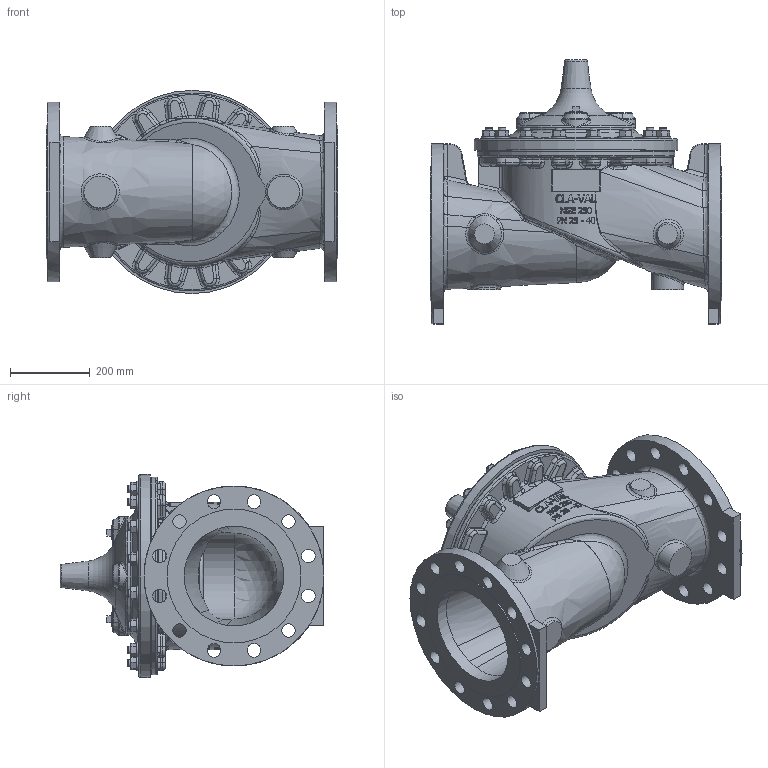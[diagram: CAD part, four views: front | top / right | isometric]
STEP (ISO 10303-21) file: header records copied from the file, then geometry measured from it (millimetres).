
FILE_DESCRIPTION(/* description */ (''),/* implementation_level */ '2;1');
FILE_NAME(/* name */ 'G:\Doc_Liberes\SymbolesCAD\Modeles_3D\FichierSTP\VanneDeBase\NGE250-40RF.stp',/* time_stamp */ '2023-08-18T11:31:46+02:00',/* author */ ('theo'),/* organization */ (''),/* preprocessor_version */ 'ST-DEVELOPER v18.1',/* originating_system */ 'Autodesk Inventor 2022',/* authorisation */ '');
FILE_SCHEMA (('AUTOMOTIVE_DESIGN { 1 0 10303 214 3 1 1 }'));
Products named in the file (1): NGE250-40_Simplifier_1
Bounding box: 730 x 660.08 x 508 mm (x, y, z)
Volume: 26657650.8 mm3; surface area: 2900599.7 mm2
Topology: 1 solids, 1 shells, 2198 faces, 5643 edges, 3520 vertices
Faces by surface type: plane 710, bspline 533, cone 466, cylinder 316, torus 144, sphere 29
Full cylindrical faces by diameter (mm): 19.05 x32, 33 x2, 34 x24, 37.306 x16, 80 x1, 250 x2, 260 x1, 267 x2, 297.18 x1, 335 x2, 450 x2, 488.5 x1, 495 x1, 508 x1
Entity records: 153284 total; most frequent: CARTESIAN_POINT 104924, ORIENTED_EDGE 11230, DIRECTION 8680, EDGE_CURVE 5615, AXIS2_PLACEMENT_3D 3685, VERTEX_POINT 3520, EDGE_LOOP 2379, FACE_OUTER_BOUND 2198
